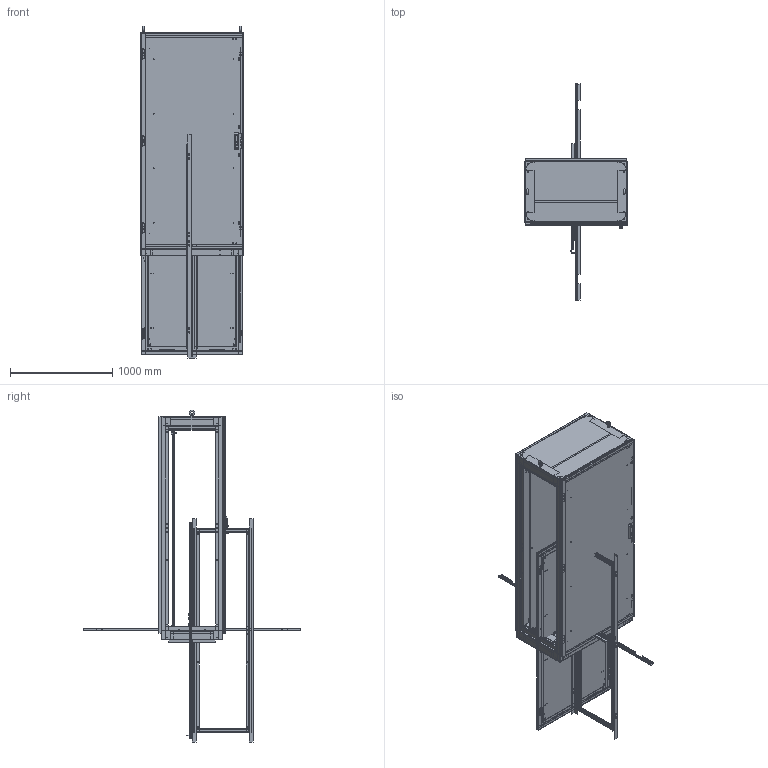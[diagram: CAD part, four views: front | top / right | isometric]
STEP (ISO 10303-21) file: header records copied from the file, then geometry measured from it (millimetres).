
FILE_DESCRIPTION( ( 'Unknown' ), '1' );
FILE_NAME( 'Q:/IME/WEB DRAWINGS/IME20106.stp', 'Unknown', ( 'Unknown' ), ( 'Unknown' ), 'XStep 1.0', 'Unknown', ' ' );
FILE_SCHEMA( ( 'CONFIG_CONTROL_DESIGN' ) );
Length unit declared in the file: millimetre
Products named in the file (99): Assem1; Assem2; Assem3; Assem4; Assem5; Assem6; Assem7; Assem8; Assem9; Assem10; Assem11; Assem12; Assem13; Assem14; Assem15; Assem16; Assem17; Assem18; 1; 2; 3; 4; 5; 6; 7; 8; 9; 10; 11; 12; 13; 14; 15; 16; 17; 18; 19; 20; 21; 22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
Bounding box: 1000.32 x 2114.75 x 3250.43 mm (x, y, z)
Volume: 63706207.2 mm3; surface area: 69249886.5 mm2
Topology: 387 solids, 393 shells, 9607 faces, 24570 edges, 16071 vertices
Faces by surface type: plane 6037, cylinder 2833, torus 334, cone 264, bspline 139
Full cylindrical faces by diameter (mm): 2.464 x12, 3.175 x3, 3.454 x16, 3.607 x12, 4.166 x32, 4.216 x12, 4.318 x12, 4.826 x16, 4.851 x8, 4.928 x12, 5.08 x24, 5.105 x12, 5.156 x12, 5.537 x86, 5.893 x8, 5.994 x14, 6 x32, 6.35 x46, 6.411 x15, 7.137 x16, 7.366 x12, 7.442 x12, 7.62 x18, 7.938 x80, 8.001 x24, 8.026 x8, 9.525 x18, 9.804 x23, 10.999 x8, 11.113 x12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
Entity records: 75269 total; most frequent: CARTESIAN_POINT 16612, DIRECTION 11337, ORIENTED_EDGE 10710, EDGE_CURVE 5355, AXIS2_PLACEMENT_3D 3824, LINE 3689, VECTOR 3689, VERTEX_POINT 3641
